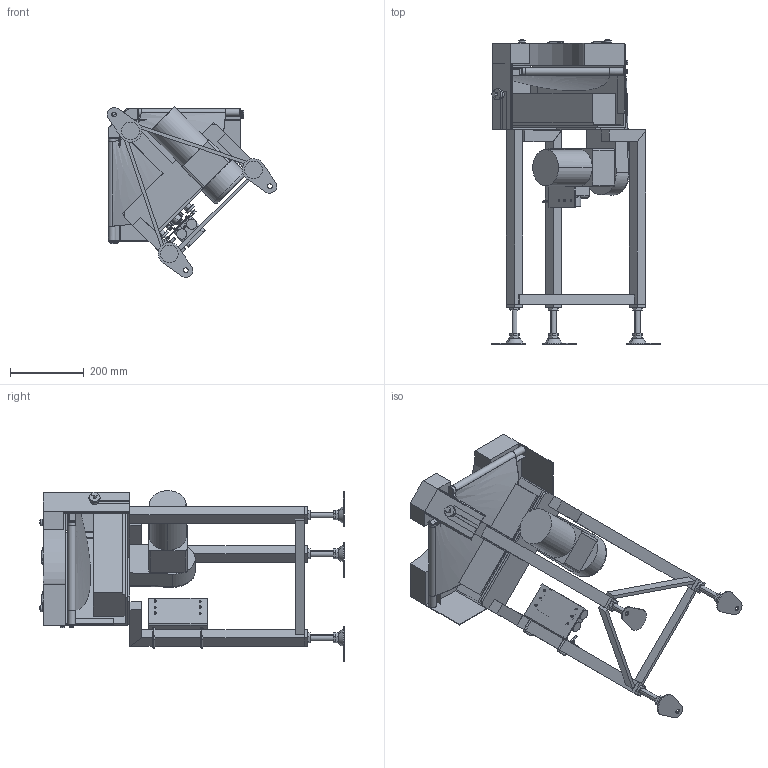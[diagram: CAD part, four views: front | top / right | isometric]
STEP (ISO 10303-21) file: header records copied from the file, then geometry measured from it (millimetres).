
FILE_DESCRIPTION( (''), '2;1');
FILE_NAME ('GFBC-UD-309-150-90°-R-K-60.stp','2025-02-03T08:43:49',(''),(''),'spGate 20.6.2 (****-****-****-****)','','');
FILE_SCHEMA (('AUTOMOTIVE_DESIGN'));
Length unit declared in the file: millimetre
Products named in the file (53): NewModel; TEMP_X_T-prt0; TEMP_X_T-prt1; TEMP_X_T-prt2; TEMP_X_T-prt3; TEMP_X_T-prt4; TEMP_X_T-prt5; TEMP_X_T-prt6; TEMP_X_T-prt7; TEMP_X_T-prt8; TEMP_X_T-prt9; TEMP_X_T-prt10; TEMP_X_T-prt11; TEMP_X_T-prt12; TEMP_X_T-prt13; TEMP_X_T-prt14; TEMP_X_T-prt15; TEMP_X_T-prt16; TEMP_X_T-prt17; TEMP_X_T-prt18; TEMP_X_T-prt19; TEMP_X_T-prt20; TEMP_X_T-prt21; TEMP_X_T-prt22; TEMP_X_T-prt23; TEMP_X_T-prt24; TEMP_X_T-prt25; TEMP_X_T-prt26; TEMP_X_T-prt27; TEMP_X_T-prt28; TEMP_X_T-prt29; TEMP_X_T-prt30; TEMP_X_T-prt31; TEMP_X_T-prt32; TEMP_X_T-prt33; TEMP_X_T-prt34; TEMP_X_T-prt35; TEMP_X_T-prt36; TEMP_X_T-prt37; TEMP_X_T-prt38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
Assembly tree (52 placements, depth 2):
  NewModel
    TEMP_X_T-prt0
    TEMP_X_T-prt1
    TEMP_X_T-prt2
    TEMP_X_T-prt3
    TEMP_X_T-prt4
    TEMP_X_T-prt5
    TEMP_X_T-prt6
    TEMP_X_T-prt7
    TEMP_X_T-prt8
    TEMP_X_T-prt9
    TEMP_X_T-prt10
    TEMP_X_T-prt11
    TEMP_X_T-prt12
    TEMP_X_T-prt13
    TEMP_X_T-prt14
    TEMP_X_T-prt15
    TEMP_X_T-prt16
    TEMP_X_T-prt17
    TEMP_X_T-prt18
    TEMP_X_T-prt19
    TEMP_X_T-prt20
    TEMP_X_T-prt21
    TEMP_X_T-prt22
    TEMP_X_T-prt23
    TEMP_X_T-prt24
    TEMP_X_T-prt25
    TEMP_X_T-prt26
    TEMP_X_T-prt27
    TEMP_X_T-prt28
    TEMP_X_T-prt29
    TEMP_X_T-prt30
    TEMP_X_T-prt31
    TEMP_X_T-prt32
    TEMP_X_T-prt33
    TEMP_X_T-prt34
    TEMP_X_T-prt35
    TEMP_X_T-prt36
    TEMP_X_T-prt37
    TEMP_X_T-prt38
    TEMP_X_T-prt39
    TEMP_X_T-prt40
    TEMP_X_T-prt41
    TEMP_X_T-prt42
    TEMP_X_T-prt43
    TEMP_X_T-prt44
    TEMP_X_T-prt45
    TEMP_X_T-prt46
    TEMP_X_T-prt47
    TEMP_X_T-prt48
    TEMP_X_T-prt49
    TEMP_X_T-prt50
    TEMP_X_T-prt51
Bounding box: 461.08 x 827.92 x 463.35 mm (x, y, z)
Volume: 13706022.3 mm3; surface area: 1901881.9 mm2
Topology: 52 solids, 52 shells, 1029 faces, 2371 edges, 1529 vertices
Faces by surface type: plane 651, cylinder 282, bspline 92, sphere 4
Entity records: 53643 total; most frequent: CARTESIAN_POINT 9626, ORIENTED_EDGE 4726, DIRECTION 4717, COLOUR_RGB 3444, PRESENTATION_STYLE_ASSIGNMENT 3444, STYLED_ITEM 3444, EDGE_CURVE 2363, DRAUGHTING_PRE_DEFINED_CURVE_FONT 2363
